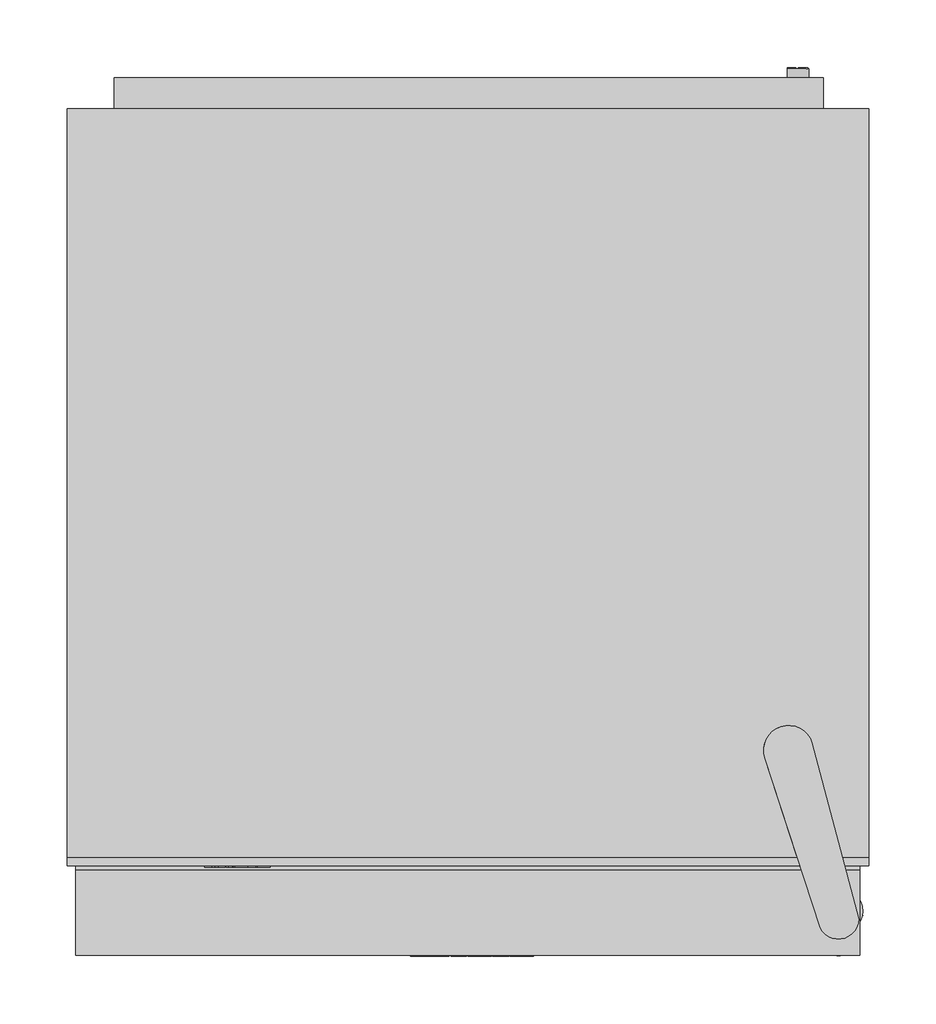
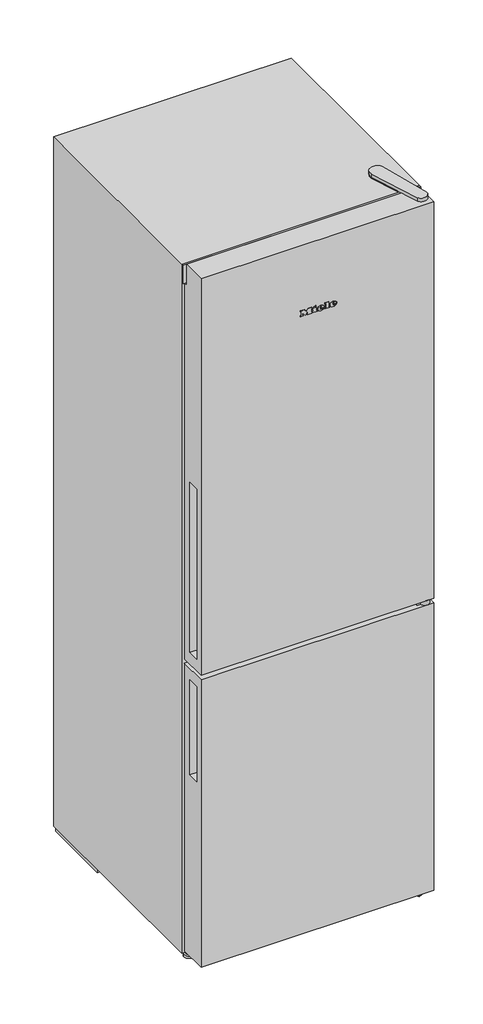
# Not in any storey: 1 proxy.
"""IFC4 building model written with IfcOpenShell, lengths in millimetres."""

from ifc_helpers import new_model, si_unit, origin, place, context, project, spatial, transform, mapped, element, save
from components import specialty_equipment_52cad4d4

model = new_model("IFC4")

# Units and contexts
model_context = context("Model", 3, world=origin())
ifc_project = project(units=[si_unit("LENGTHUNIT", "METRE", prefix="MILLI")], contexts=[model_context])

# Site, building
site = spatial("IfcSite", under=ifc_project)
building = spatial("IfcBuilding", under=site)

# Proxy
placement = place(None, origin())
specialty_equipment_shape = specialty_equipment_52cad4d4(model_context)
element("IfcBuildingElementProxy", 1, Name="12108900_OER_KD4172E_EL : 38417251_OER_12108900_KD4172E_EL", ObjectType="12108900_OER_KD4172E_EL : 38417251_OER_12108900_KD4172E_EL", at=placement, inside=building, context=model_context, shape_type="MappedRepresentation", body=[
    mapped(specialty_equipment_shape, transform((0.0, 0.0, 0.0), x_axis=(1.0, 0.0, 0.0), y_axis=(0.0, 1.0, 0.0), z_axis=(0.0, 0.0, 1.0))),
])

save(model, "model.ifc")
